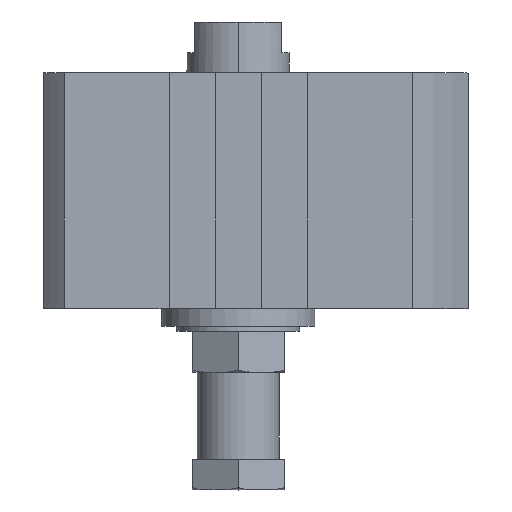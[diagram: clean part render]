
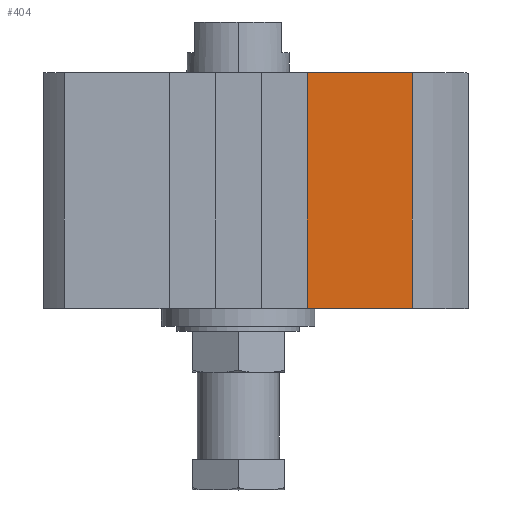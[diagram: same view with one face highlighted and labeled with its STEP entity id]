
A CAD part, top view. The second image highlights one B-rep face of the part: STEP entity #404.
In plain terms, the highlighted planar face has unit normal (0, 0, 1).
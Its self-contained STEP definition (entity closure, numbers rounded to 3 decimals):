
#106 = DIRECTION ( 'NONE',  ( 1., 0., 0. ) ) ;
#121 = EDGE_LOOP ( 'NONE', ( #3213, #3893, #2062, #2693 ) ) ;
#129 = CARTESIAN_POINT ( 'NONE',  ( 0., 0., 38. ) ) ;
#222 = DIRECTION ( 'NONE',  ( 0., 1., 0. ) ) ;
#404 = ADVANCED_FACE ( 'NONE', ( #2315 ), #1277, .T. ) ;
#439 = VECTOR ( 'NONE', #4151, 1000. ) ;
#443 = LINE ( 'NONE', #1779, #606 ) ;
#521 = DIRECTION ( 'NONE',  ( 0., 0., 1. ) ) ;
#538 = DIRECTION ( 'NONE',  ( 1., 0., 0. ) ) ;
#558 = EDGE_CURVE ( 'NONE', #2195, #3498, #4097, .T. ) ;
#606 = VECTOR ( 'NONE', #2874, 1000. ) ;
#764 = EDGE_CURVE ( 'NONE', #3498, #3781, #1961, .T. ) ;
#972 = CARTESIAN_POINT ( 'NONE',  ( 34.015, -46., 38. ) ) ;
#1245 = CARTESIAN_POINT ( 'NONE',  ( 0., -46., 38. ) ) ;
#1277 = PLANE ( 'NONE',  #4621 ) ;
#1395 = CARTESIAN_POINT ( 'NONE',  ( 13.5, -46., 38. ) ) ;
#1651 = CARTESIAN_POINT ( 'NONE',  ( 13.5, -46., 38. ) ) ;
#1779 = CARTESIAN_POINT ( 'NONE',  ( 0., -46., 38. ) ) ;
#1961 = LINE ( 'NONE', #129, #4777 ) ;
#2042 = VERTEX_POINT ( 'NONE', #972 ) ;
#2062 = ORIENTED_EDGE ( 'NONE', *, *, #2129, .T. ) ;
#2129 = EDGE_CURVE ( 'NONE', #2195, #2042, #443, .T. ) ;
#2195 = VERTEX_POINT ( 'NONE', #1395 ) ;
#2315 = FACE_OUTER_BOUND ( 'NONE', #121, .T. ) ;
#2428 = VECTOR ( 'NONE', #222, 1000. ) ;
#2441 = EDGE_CURVE ( 'NONE', #2042, #3781, #2934, .T. ) ;
#2693 = ORIENTED_EDGE ( 'NONE', *, *, #2441, .T. ) ;
#2827 = CARTESIAN_POINT ( 'NONE',  ( 13.5, 0., 38. ) ) ;
#2874 = DIRECTION ( 'NONE',  ( 1., 0., 0. ) ) ;
#2934 = LINE ( 'NONE', #3047, #439 ) ;
#3047 = CARTESIAN_POINT ( 'NONE',  ( 34.015, -46., 38. ) ) ;
#3213 = ORIENTED_EDGE ( 'NONE', *, *, #764, .F. ) ;
#3498 = VERTEX_POINT ( 'NONE', #2827 ) ;
#3781 = VERTEX_POINT ( 'NONE', #4067 ) ;
#3893 = ORIENTED_EDGE ( 'NONE', *, *, #558, .F. ) ;
#4067 = CARTESIAN_POINT ( 'NONE',  ( 34.015, 0., 38. ) ) ;
#4097 = LINE ( 'NONE', #1651, #2428 ) ;
#4151 = DIRECTION ( 'NONE',  ( 0., 1., 0. ) ) ;
#4621 = AXIS2_PLACEMENT_3D ( 'NONE', #1245, #521, #538 ) ;
#4777 = VECTOR ( 'NONE', #106, 1000. ) ;
